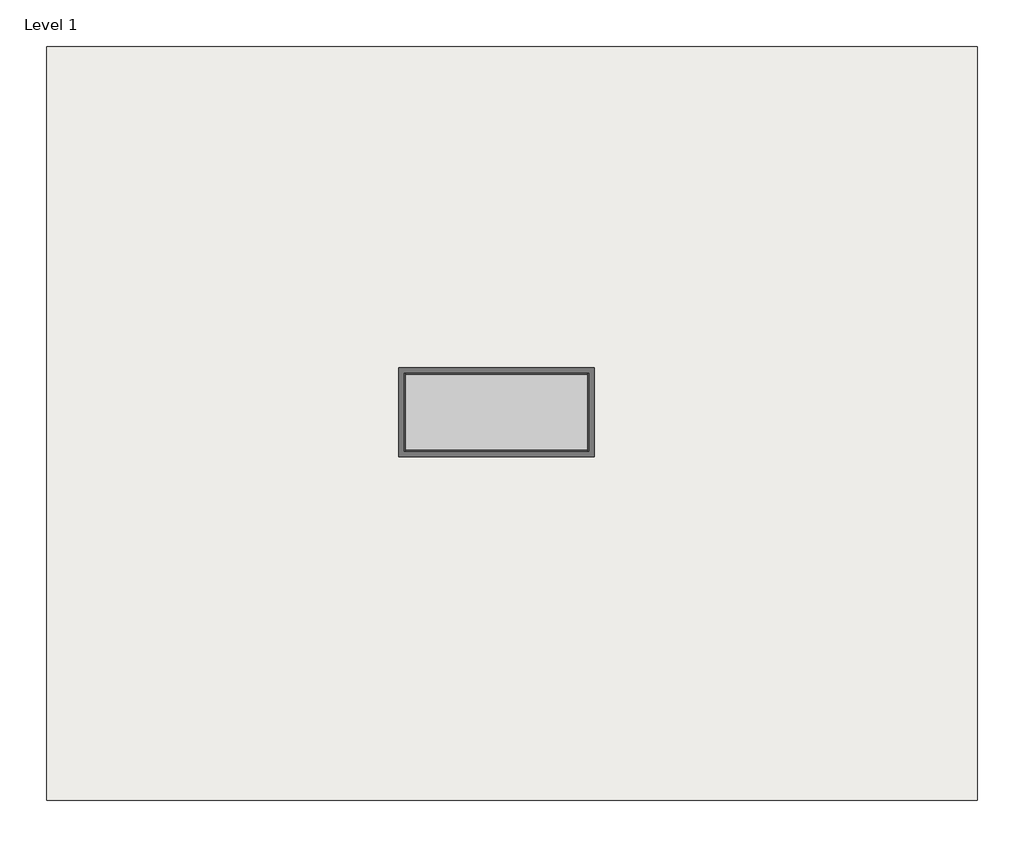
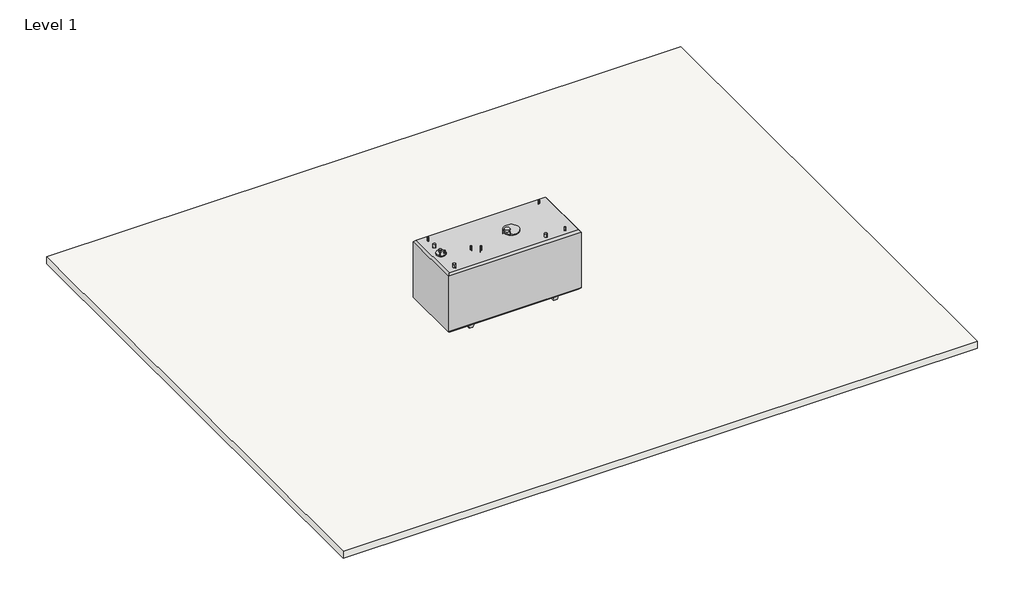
# One storey: 1 proxy, 1 slab.
"""IFC4 building model written with IfcOpenShell, lengths in millimetres."""

from ifc_helpers import new_model, si_unit, frame, origin, place, context, project, spatial, polyline, outline, extrude, transform, mapped, element, save
from components import generic_models_9c2a263e

model = new_model("IFC4")

# Units and contexts
model_context = context("Model", 3, world=origin())
ifc_project = project(units=[si_unit("LENGTHUNIT", "METRE", prefix="MILLI")], contexts=[model_context])

# Site, building, storey
site = spatial("IfcSite", under=ifc_project)
building = spatial("IfcBuilding", under=site)
storey = spatial("IfcBuildingStorey", under=building, Name="Level 1", Elevation=0.0)

# Proxy
placement = place(None, origin())
generic_models_shape = generic_models_9c2a263e(model_context)
element("IfcBuildingElementProxy", 1, Name="Convault Tank Family 88153044 : Convault Tank Family 88153044", ObjectType="Convault Tank Family 88153044 : Convault Tank Family 88153044", at=placement, inside=storey, context=model_context, shape_type="MappedRepresentation", body=[
    mapped(generic_models_shape, transform((-777.663792, 2288.4257528, 0.0), x_axis=(1.0, 0.0, 0.0), y_axis=(0.0, 1.0, 0.0), z_axis=(0.0, 0.0, 1.0))),
])

# Slab
element("IfcSlab", 2, ObjectType="Generic - 12\"", at=placement, inside=storey, context=model_context, shape_type="SweptSolid", body=[
    extrude(outline(polyline([(12446.9560906, 12349.2639914), (12446.9560906, -8377.1360086), (-13156.2439094, -8377.1360086), (-13156.2439094, 12349.2639914), (12446.9560906, 12349.2639914)])), frame((0.0, 0.0, -304.8), z_axis=(0.0, 0.0, 1.0), x_axis=(1.0, 0.0, 0.0)), (0.0, 0.0, 1.0), 304.8),
])

save(model, "model.ifc")
